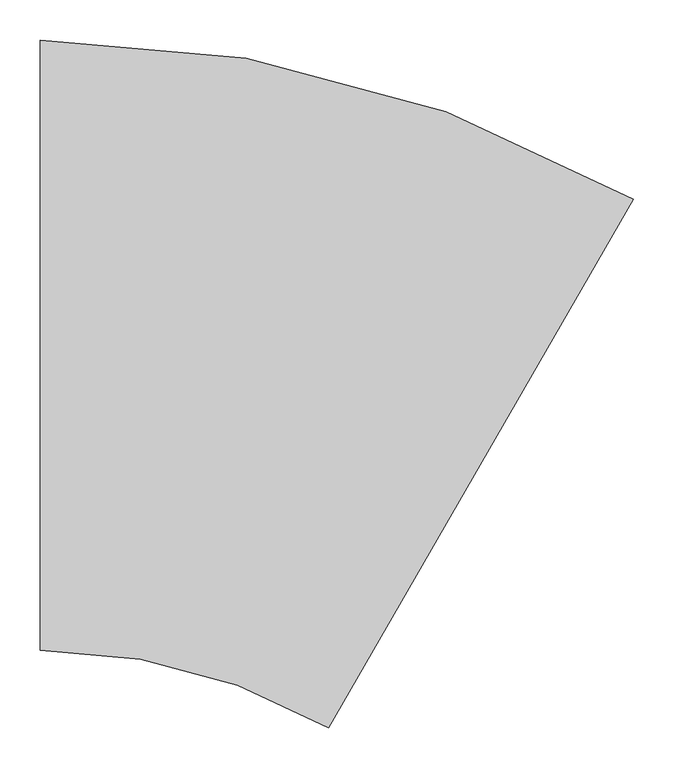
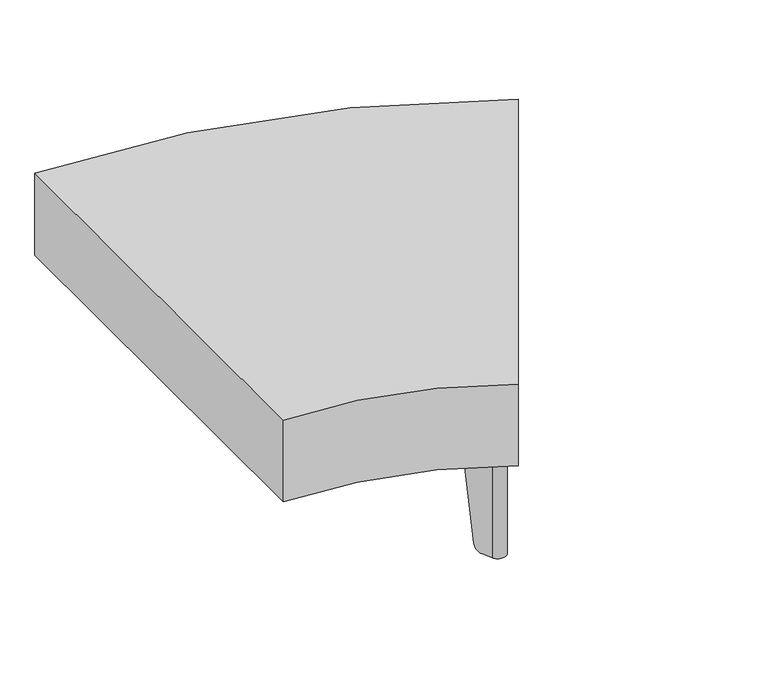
"""IFC4 building model written with IfcOpenShell, lengths in millimetres: furniture geometry, Stance_HC-Flora-Table_Curve_30 : FATR30WC-P."""

from ifc_helpers import new_model, si_unit, point, frame, frame_2d, origin, origin_with_axes, place, context, project, spatial, polyline, circle_curve, ellipse_curve, trimmed, segment, composite_curve, outline, extrude, source, transform, mapped, element, save
from ifc_brep_helpers import plane_surface, cylinder_surface, revolved_surface, advanced_brep


def furniture_7440f04f(model_context):
    return source(origin(), model_context, "Body", "SolidModel", [
        extrude(outline(composite_curve([segment(polyline([(0.0, -757.2502172), (0.0, 0.0)]), True, "CONTINUOUS"), segment(trimmed(circle_curve(frame_2d((0.0, -1473.9188659)), 1473.9188659), [point((0.0, 0.0))], [point((736.959433, -197.4676849))], False, "CARTESIAN"), True, "CONTINUOUS"), segment(polyline([(736.959433, -197.4676849), (358.3343243, -853.2656101)]), True, "CONTINUOUS"), segment(trimmed(circle_curve(frame_2d((0.0, -1473.9188659)), 716.6686487), [point((358.3343243, -853.2656101))], [point((0.0, -757.2502172))], True, "CARTESIAN"), True, "CONTINUOUS")], self_intersect=False)), frame((0.0, 0.0, 196.85), z_axis=(0.0, 0.0, 1.0), x_axis=(1.0, 0.0, 0.0)), (0.0, 0.0, 1.0), 152.399991),
        extrude(outline(composite_curve([segment(polyline([(668.2817274, -213.9273848), (684.4622222, -212.5117452)]), True, "CONTINUOUS"), segment(trimmed(circle_curve(frame_2d((685.4727964, -224.0624182)), 11.5947965), [point((684.4622222, -212.5117452))], [point((690.37295, -234.5708815))], False, "CARTESIAN"), True, "CONTINUOUS"), segment(polyline([(690.37295, -234.5708815), (675.6524106, -241.435149), (668.2817274, -213.9273848)]), True, "CONTINUOUS")], self_intersect=False)), frame((0.0, 0.0, 3.175), z_axis=(0.0, 0.0, 1.0), x_axis=(1.0, 0.0, 0.0)), (0.0, 0.0, 1.0), 3.3792927),
        advanced_brep(
        [(641.2881832, -261.0059331, 193.6877233), (691.7313564, -237.4840072, 193.6877233), (684.1820738, -209.3097011, 193.6877233), (628.7360447, -214.1607021, 193.6877233), (629.0161931, -217.3627462, 193.6877233), (684.4622222, -212.5117452, 193.6877233), (690.37295, -234.5708815, 193.6877233), (639.9297768, -258.0928073, 193.6877233), (641.2881832, -261.0059331, 189.1419595), (690.37295, -234.5708815, 3.1876992), (674.3812509, -242.0278977, 3.1876992), (659.8805523, -248.7896523, 17.1280233), (684.4622222, -212.5117452, 3.1876992), (650.9456458, -215.4441273, 17.1280233), (666.8844965, -214.0496293, 3.1876992), (628.7360447, -214.1607021, 189.1419334), (684.1820738, -209.3097011, 3.1876992), (666.0397473, -210.8969824, 3.1876992), (650.1008966, -212.2914804, 17.1280233), (691.7313564, -237.4840072, 3.1876992), (660.7253015, -251.9422992, 17.1280233), (675.2260001, -245.1805446, 3.1876992)],
        [
            (0, 1),
            (1, 2, circle_curve(frame((685.4727964, -224.0624182, 193.6877233), z_axis=(0.0, 0.0, 1.0), x_axis=(-0.866025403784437, 0.5000000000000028, 0.0)), 14.8090724)),
            (2, 3),
            (3, 4),
            (4, 5),
            (5, 6, circle_curve(frame((685.4727964, -224.0624182, 193.6877233), z_axis=(0.0, 0.0, -1.0), x_axis=(-0.866025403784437, 0.5000000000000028, 0.0)), 11.5947965)),
            (6, 7),
            (7, 0),
            (7, 8),
            (8, 0),
            (6, 9),
            (9, 10),
            (10, 11, ellipse_curve(frame((674.3812509, -242.0278977, 19.0626992), z_axis=(-0.4226166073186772, 0.9063085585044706, 0.0), x_axis=(-0.9063085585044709, -0.42261660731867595, 0.0)), 16.1198923, 15.875)),
            (11, 7),
            (5, 12),
            (12, 9, circle_curve(frame((685.4727964, -224.0624182, 3.1876992), z_axis=(0.0, 0.0, -1.0), x_axis=(-0.866025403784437, 0.5000000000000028, 0.0)), 11.5947965)),
            (4, 13),
            (13, 14, ellipse_curve(frame((666.8844965, -214.0496293, 19.0626992), z_axis=(0.08715756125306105, -0.9961945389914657, 0.0), x_axis=(0.9961945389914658, 0.08715756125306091, 0.0)), 16.1198923, 15.875)),
            (14, 12),
            (3, 15),
            (15, 4),
            (2, 16),
            (16, 17),
            (17, 18, ellipse_curve(frame((666.0397473, -210.8969824, 19.0626992), z_axis=(-0.08715756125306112, 0.9961945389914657, 0.0), x_axis=(0.9961945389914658, 0.08715756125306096, 0.0)), 16.1198923, 15.875)),
            (18, 15),
            (1, 19),
            (19, 16, circle_curve(frame((685.4727964, -224.0624182, 3.1876992), z_axis=(0.0, 0.0, 1.0), x_axis=(-0.866025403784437, 0.5000000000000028, 0.0)), 14.8090724)),
            (8, 20),
            (20, 21, ellipse_curve(frame((675.2260001, -245.1805446, 19.0626992), z_axis=(0.4226166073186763, -0.9063085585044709, 0.0), x_axis=(-0.9063085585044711, -0.4226166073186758, 0.0)), 16.1198923, 15.875)),
            (21, 19),
            (18, 13),
            (11, 20),
            (21, 10),
            (14, 17),
        ],
        [
            plane_surface(frame((639.9297768, -258.0928073, 193.6877233), z_axis=(0.0, 0.0, 1.0), x_axis=(-0.4226166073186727, 0.9063085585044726, 0.0))),
            plane_surface(frame((641.2881832, -261.0059331, 193.6877233), z_axis=(-0.9063085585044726, -0.4226166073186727, 0.0), x_axis=(0.0, 0.0, -1.0))),
            plane_surface(frame((639.9297768, -258.0928073, 193.6877233), z_axis=(-0.42261660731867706, 0.9063085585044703, 0.0), x_axis=(0.0, 0.0, -1.0))),
            revolved_surface(polyline([(675.4314080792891, -218.26501994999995, 3.1876992), (675.4314080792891, -218.26501994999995, 193.6877233)]), (685.4727964, -224.0624182, 0.0), (0.0, 0.0, -1.0)),
            plane_surface(frame((684.4622222, -212.5117452, 193.6877233), z_axis=(0.08715756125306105, -0.9961945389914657, 0.0), x_axis=(0.0, 0.0, -1.0))),
            plane_surface(frame((629.0161931, -217.3627462, 193.6877233), z_axis=(-0.9961945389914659, -0.08715756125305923, 0.0), x_axis=(0.0, 0.0, -1.0))),
            plane_surface(frame((628.7360447, -214.1607021, 193.6877233), z_axis=(-0.08715756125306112, 0.9961945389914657, 0.0), x_axis=(0.0, 0.0, -1.0))),
            cylinder_surface(frame((685.4727964, -224.0624182, 0.0), z_axis=(0.0, 0.0, 1.0), x_axis=(-0.866025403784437, 0.5000000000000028, 0.0)), 14.8090724),
            plane_surface(frame((691.7313564, -237.4840072, 193.6877233), z_axis=(0.4226166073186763, -0.9063085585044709, 0.0), x_axis=(0.0, 0.0, -1.0))),
            plane_surface(frame((647.9472752, -204.2540559, 17.1280233), z_axis=(-0.9587259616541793, -0.25688984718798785, -0.12186934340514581), x_axis=(0.25881904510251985, -0.9659258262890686, 0.0))),
            plane_surface(frame((692.3299262, -192.3617604, 3.1876992), z_axis=(0.0, 0.0, -1.0), x_axis=(0.25881904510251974, -0.9659258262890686, 0.0))),
            cylinder_surface(frame((678.0956313, -255.8901541, 19.0626992), z_axis=(0.25881904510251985, -0.9659258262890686, 0.0), x_axis=(-0.9659258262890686, -0.25881904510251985, 0.0)), 15.875),
        ],
        [
            (0, [[1, 2, 3, 4, 5, 6, 7, 8]]),
            (1, [[9, 10, -8]]),
            (2, [[11, 12, 13, 14, -7]]),
            (3, [[15, 16, -11, -6]]),
            (4, [[17, 18, 19, -15, -5]]),
            (5, [[20, 21, -4]]),
            (6, [[22, 23, 24, 25, -20, -3]]),
            (7, [[26, 27, -22, -2]]),
            (8, [[-10, 28, 29, 30, -26, -1]]),
            (9, [[-17, -21, -25, 31]]),
            (9, [[-28, -9, -14, 32]]),
            (10, [[-23, -27, -30, 33, -12, -16, -19, 34]]),
            (11, [[-13, -33, -29, -32]]),
            (11, [[-24, -34, -18, -31]]),
        ],
    ),
        extrude(outline(composite_curve([segment(trimmed(circle_curve(frame_2d((682.6993851, -224.799419)), 11.1125), [point((692.3230924, -230.355669))], [point((673.0756778, -219.243169))], False, "CARTESIAN"), True, "CONTINUOUS"), segment(trimmed(circle_curve(frame_2d((682.6993851, -224.799419)), 11.1125), [point((673.0756778, -219.243169))], [point((692.3230924, -230.355669))], False, "CARTESIAN"), True, "CONTINUOUS")], self_intersect=False)), origin_with_axes(), (0.0, 0.0, 1.0), 3.175),
        extrude(outline(composite_curve([segment(trimmed(circle_curve(frame_2d((687.274732, -223.5795904)), 15.8749964), [point((694.2338725, -209.3112382))], [point((700.4357007, -232.4567754))], False, "CARTESIAN"), True, "CONTINUOUS"), segment(polyline([(700.4357007, -232.4567754), (644.3454475, -315.6139999), (603.5690814, -326.5399904), (543.9047337, -261.9954717), (563.3033058, -176.2660902), (604.0796724, -165.3400957), (694.2338725, -209.3112382)]), True, "CONTINUOUS")], self_intersect=False)), frame((0.0, 0.0, 193.6877233), z_axis=(0.0, 0.0, 1.0), x_axis=(1.0, 0.0, 0.0)), (0.0, 0.0, 1.0), 4.7751809),
        extrude(outline(composite_curve([segment(polyline([(335.8750984, -789.672555), (363.3828626, -782.3018718), (364.7985022, -798.4823666)]), True, "CONTINUOUS"), segment(trimmed(circle_curve(frame_2d((353.2478293, -799.4929408)), 11.5947965), [point((364.7985022, -798.4823666))], [point((342.739366, -804.3930943))], False, "CARTESIAN"), True, "CONTINUOUS"), segment(polyline([(342.739366, -804.3930943), (335.8750984, -789.672555)]), True, "CONTINUOUS")], self_intersect=False)), frame((0.0, 0.0, 3.175), z_axis=(0.0, 0.0, 1.0), x_axis=(1.0, 0.0, 0.0)), (0.0, 0.0, 1.0), 3.3792927),
        advanced_brep(
        [(363.1495451, -742.7561858, 193.6877233), (359.947501, -743.0363342, 193.6877233), (364.7985022, -798.4823666, 193.6877233), (342.739366, -804.3930943, 193.6877233), (319.2174415, -753.9499241, 193.6877233), (316.3043157, -755.3083305, 193.6877233), (339.8262402, -805.7515007, 193.6877233), (368.0005464, -798.2022181, 193.6877233), (363.1495451, -742.7561858, 189.1419595), (361.8661201, -764.9657902, 17.1280233), (363.2606182, -780.9046408, 3.1876992), (364.7985022, -798.4823666, 3.1876992), (342.739366, -804.3930943, 3.1876992), (335.2823498, -788.4013953, 3.1876992), (328.5205952, -773.9006966, 17.1280233), (316.3043157, -755.3083305, 189.1419334), (325.3679483, -774.7454458, 17.1280233), (332.1297028, -789.2461445, 3.1876992), (339.8262402, -805.7515007, 3.1876992), (368.0005464, -798.2022181, 3.1876992), (366.4132651, -780.0598916, 3.1876992), (365.018767, -764.121041, 17.1280233)],
        [
            (0, 1),
            (1, 2),
            (2, 3, circle_curve(frame((353.2478293, -799.4929408, 193.6877233), z_axis=(0.0, 0.0, -1.0), x_axis=(-0.8660254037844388, 0.49999999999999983, 0.0)), 11.5947965)),
            (3, 4),
            (4, 5),
            (5, 6),
            (6, 7, circle_curve(frame((353.2478293, -799.4929408, 193.6877233), z_axis=(0.0, 0.0, 1.0), x_axis=(-0.8660254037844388, 0.49999999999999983, 0.0)), 14.8090724)),
            (7, 0),
            (0, 8),
            (8, 1),
            (1, 9),
            (9, 10, ellipse_curve(frame((363.2606182, -780.9046408, 19.0626992), z_axis=(-0.9961945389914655, -0.08715756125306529, 0.0), x_axis=(-0.08715756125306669, 0.9961945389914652, 0.0)), 16.1198923, 15.875)),
            (10, 11),
            (11, 2),
            (11, 12, circle_curve(frame((353.2478293, -799.4929408, 3.1876992), z_axis=(0.0, 0.0, -1.0), x_axis=(-0.8660254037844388, 0.49999999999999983, 0.0)), 11.5947965)),
            (12, 3),
            (12, 13),
            (13, 14, ellipse_curve(frame((335.2823498, -788.4013953, 19.0626992), z_axis=(0.9063085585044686, 0.422616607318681, 0.0), x_axis=(0.4226166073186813, -0.9063085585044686, 0.0)), 16.1198923, 15.875)),
            (14, 4),
            (4, 15),
            (15, 5),
            (15, 16),
            (16, 17, ellipse_curve(frame((332.1297028, -789.2461445, 19.0626992), z_axis=(-0.9063085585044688, -0.422616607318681, 0.0), x_axis=(0.42261660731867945, -0.9063085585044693, 0.0)), 16.1198923, 15.875)),
            (17, 18),
            (18, 6),
            (18, 19, circle_curve(frame((353.2478293, -799.4929408, 3.1876992), z_axis=(0.0, 0.0, 1.0), x_axis=(-0.8660254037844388, 0.49999999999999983, 0.0)), 14.8090724)),
            (19, 7),
            (19, 20),
            (20, 21, ellipse_curve(frame((366.4132651, -780.0598916, 19.0626992), z_axis=(0.9961945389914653, 0.08715756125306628, 0.0), x_axis=(-0.08715756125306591, 0.9961945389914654, 0.0)), 16.1198923, 15.875)),
            (21, 8),
            (14, 16),
            (21, 9),
            (17, 13),
            (10, 20),
        ],
        [
            plane_surface(frame((359.947501, -743.0363342, 193.6877233), z_axis=(0.0, 0.0, 1.0000000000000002), x_axis=(-0.996194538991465, -0.08715756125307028, 0.0))),
            plane_surface(frame((363.1495451, -742.7561858, 193.6877233), z_axis=(-0.08715756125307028, 0.996194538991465, 0.0), x_axis=(0.0, 0.0, -1.0))),
            plane_surface(frame((359.947501, -743.0363342, 193.6877233), z_axis=(-0.9961945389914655, -0.08715756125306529, 0.0), x_axis=(0.0, 0.0, -1.0))),
            revolved_surface(polyline([(343.2064409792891, -793.69554255, 3.1876992), (343.2064409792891, -793.69554255, 193.6877233)]), (353.2478293, -799.4929408, 0.0), (0.0, 0.0, -1.0)),
            plane_surface(frame((342.739366, -804.3930943, 193.6877233), z_axis=(0.9063085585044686, 0.422616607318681, 0.0), x_axis=(0.0, 0.0, -1.0))),
            plane_surface(frame((319.2174415, -753.9499241, 193.6877233), z_axis=(-0.42261660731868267, 0.9063085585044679, 0.0), x_axis=(0.0, 0.0, -1.0))),
            plane_surface(frame((316.3043157, -755.3083305, 193.6877233), z_axis=(-0.9063085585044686, -0.4226166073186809, 0.0), x_axis=(0.0, 0.0, -1.0))),
            cylinder_surface(frame((353.2478293, -799.4929408, 0.0), z_axis=(0.0, 0.0, 1.0), x_axis=(-0.8660254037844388, 0.49999999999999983, 0.0)), 14.8090724),
            plane_surface(frame((368.0005464, -798.2022181, 193.6877233), z_axis=(0.9961945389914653, 0.08715756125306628, 0.0), x_axis=(0.0, 0.0, -1.0))),
            plane_surface(frame((317.3305237, -776.8990672, 17.1280233), z_axis=(-0.25688984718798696, 0.9587259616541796, -0.12186934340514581), x_axis=(0.9659258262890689, 0.2588190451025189, 0.0))),
            plane_surface(frame((329.2228192, -821.2817182, 3.1876992), z_axis=(0.0, 0.0, -1.0000000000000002), x_axis=(0.9659258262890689, 0.25881904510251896, 0.0))),
            cylinder_surface(frame((377.1228746, -777.1902604, 19.0626992), z_axis=(0.9659258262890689, 0.2588190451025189, 0.0), x_axis=(-0.2588190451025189, 0.9659258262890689, 0.0)), 15.875),
        ],
        [
            (0, [[1, 2, 3, 4, 5, 6, 7, 8]]),
            (1, [[-1, 9, 10]]),
            (2, [[-2, 11, 12, 13, 14]]),
            (3, [[-3, -14, 15, 16]]),
            (4, [[-4, -16, 17, 18, 19]]),
            (5, [[-5, 20, 21]]),
            (6, [[-6, -21, 22, 23, 24, 25]]),
            (7, [[-7, -25, 26, 27]]),
            (8, [[-8, -27, 28, 29, 30, -9]]),
            (9, [[31, -22, -20, -19]]),
            (9, [[32, -11, -10, -30]]),
            (10, [[33, -17, -15, -13, 34, -28, -26, -24]]),
            (11, [[-31, -18, -33, -23]]),
            (11, [[-32, -29, -34, -12]]),
        ],
    ),
        extrude(outline(composite_curve([segment(trimmed(circle_curve(frame_2d((352.4993851, -796.7225957)), 11.1125), [point((362.1230924, -802.2788457))], [point((342.8756778, -791.1663457))], False, "CARTESIAN"), True, "CONTINUOUS"), segment(trimmed(circle_curve(frame_2d((352.4993851, -796.7225957)), 11.1125), [point((342.8756778, -791.1663457))], [point((362.1230924, -802.2788457))], False, "CARTESIAN"), True, "CONTINUOUS")], self_intersect=False)), origin_with_axes(), (0.0, 0.0, 1.0), 3.175),
        extrude(outline(composite_curve([segment(polyline([(344.8534708, -814.4558452), (261.6962442, -758.3655889), (250.7702497, -717.5892223), (315.3147859, -657.9248753), (401.0441526, -677.3234568), (411.9701504, -718.099821), (367.999008, -808.2540174)]), True, "CONTINUOUS"), segment(trimmed(circle_curve(frame_2d((353.730656, -801.2948767)), 15.8749964), [point((367.999008, -808.2540174))], [point((344.8534708, -814.4558452))], False, "CARTESIAN"), True, "CONTINUOUS")], self_intersect=False)), frame((0.0, 0.0, 193.6877233), z_axis=(0.0, 0.0, 1.0), x_axis=(1.0, 0.0, 0.0)), (0.0, 0.0, 1.0), 4.7751809),
    ])


if __name__ == "__main__":
    model = new_model("IFC4")
    model_context = context("Model", 3, world=origin())
    ifc_project = project(units=[si_unit("LENGTHUNIT", "METRE", prefix="MILLI")], contexts=[model_context])
    site = spatial("IfcSite", under=ifc_project)
    building = spatial("IfcBuilding", under=site)
    placement = place(None, origin())
    furniture_shape = furniture_7440f04f(model_context)
    element("IfcFurniture", 1, ObjectType="Stance_HC-Flora-Table_Curve_30 : FATR30WC-P", at=placement, inside=building, context=model_context, shape_type="MappedRepresentation", body=[
        mapped(furniture_shape, transform((0.0, 0.0, 0.0), x_axis=(1.0, 0.0, 0.0), y_axis=(0.0, 1.0, 0.0), z_axis=(0.0, 0.0, 1.0))),
    ])
    save(model, "model.ifc")
